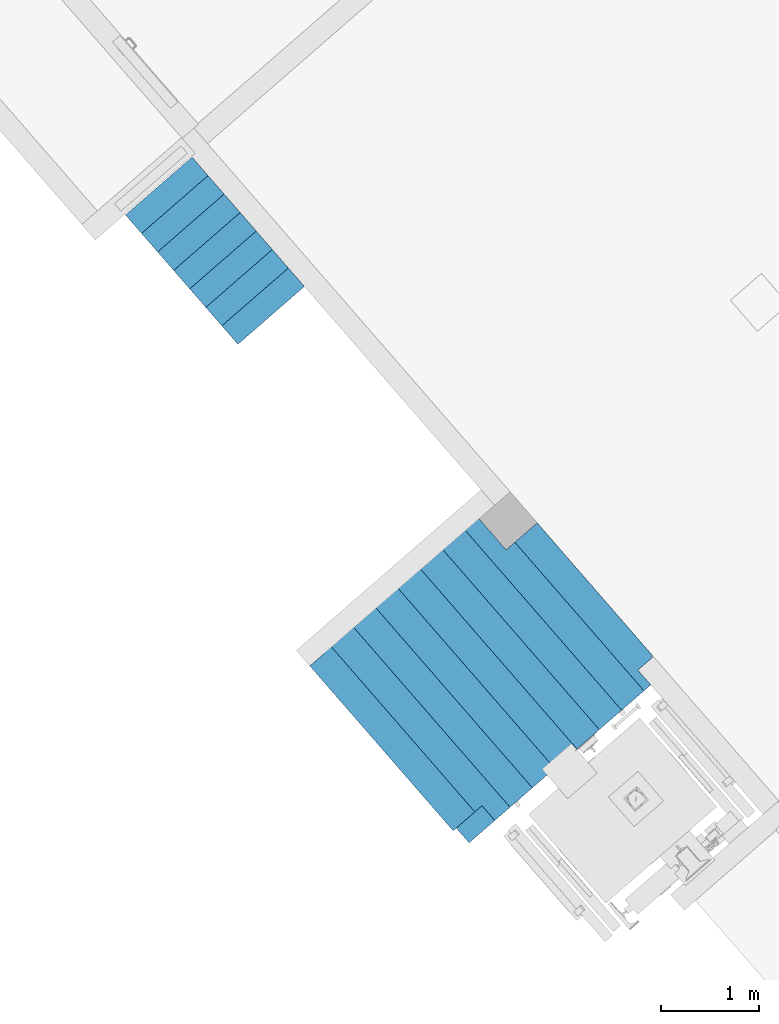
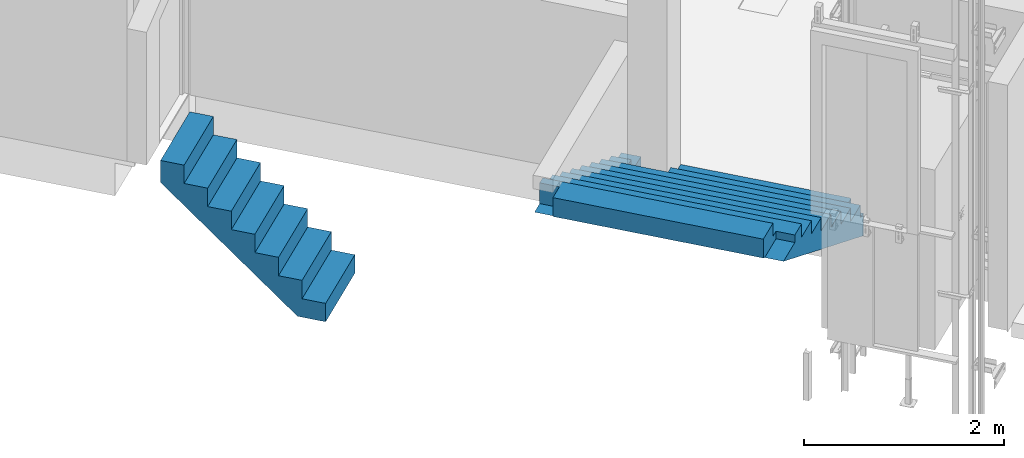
# One storey, part 101 of 124: 2 stairs, 2 elements without a shape of their own.
"""IFC2X3 building model written with IfcOpenShell, lengths in millimetres."""

from ifc_helpers import new_model, entity, si_unit, converted_unit, derived_unit, money_unit, direction, frame, origin_with_axes, place, context, subcontext, project, spatial, faceted_brep, material, element, aggregate, save


model = new_model("IFC2X3")

# Units and contexts
model_context = context("Model", 3, precision=1e-05, world=origin_with_axes(), true_north=direction((0.0, 1.0)))
body_context = subcontext(model_context, "Body", "Model", "MODEL_VIEW")
ifc_project = project(units=[si_unit("LENGTHUNIT", "METRE", prefix="MILLI"), si_unit("AREAUNIT", "SQUARE_METRE"), si_unit("VOLUMEUNIT", "CUBIC_METRE"), converted_unit("PLANEANGLEUNIT", "DEGREE", entity("IfcPlaneAngleMeasure", 0.0174532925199), si_unit("PLANEANGLEUNIT", "RADIAN"), dimensions=[0, 0, 0, 0, 0, 0, 0]), si_unit("SOLIDANGLEUNIT", "STERADIAN"), money_unit("EUR"), converted_unit("TIMEUNIT", "Year", entity("IfcTimeMeasure", 31556926.0), si_unit("TIMEUNIT", "SECOND"), dimensions=[0, 0, 1, 0, 0, 0, 0]), si_unit("MASSUNIT", "GRAM", prefix="KILO"), si_unit("THERMODYNAMICTEMPERATUREUNIT", "DEGREE_CELSIUS"), si_unit("LUMINOUSINTENSITYUNIT", "LUMEN"), si_unit("ENERGYUNIT", "JOULE", prefix="MEGA"), derived_unit("THERMALCONDUCTANCEUNIT", [(si_unit("POWERUNIT", "WATT"), 1), (si_unit("LENGTHUNIT", "METRE"), -1), (si_unit("THERMODYNAMICTEMPERATUREUNIT", "KELVIN"), -1)]), derived_unit("SPECIFICHEATCAPACITYUNIT", [(si_unit("ENERGYUNIT", "JOULE"), 1), (si_unit("MASSUNIT", "GRAM", prefix="KILO"), -1), (si_unit("THERMODYNAMICTEMPERATUREUNIT", "KELVIN"), -1)]), derived_unit("MASSDENSITYUNIT", [(si_unit("MASSUNIT", "GRAM", prefix="KILO"), 1), (si_unit("VOLUMEUNIT", "CUBIC_METRE"), -1)])], contexts=[model_context])

# Site, building, storey
site_placement = place(None, origin_with_axes())
site = spatial("IfcSite", under=ifc_project, at=site_placement, Name="Site", CompositionType="ELEMENT")
building_placement = place(site_placement, origin_with_axes())
building = spatial("IfcBuilding", under=site, at=building_placement, Name="Building", CompositionType="ELEMENT")
storey_placement = place(building_placement, frame((0.0, 0.0, -1615.0), z_axis=(0.0, 0.0, 1.0), x_axis=(1.0, 0.0, 0.0)))
storey = spatial("IfcBuildingStorey", under=building, at=storey_placement, Name="0  korrus", CompositionType="ELEMENT", Elevation=-1615.0)

# Stairs
stair_1_placement = place(storey_placement, frame((147420.396651, 79766.6819677, 0.0), z_axis=(0.0, 0.0, 1.0), x_axis=(1.0, 0.0, 0.0)))
stair_1 = element("IfcStair", 1, at=stair_1_placement, inside=storey, Name="T-10", ShapeType="NOTDEFINED")
ifc_material = material(Name="GENEERILINE - KONSTRUKTRIOON")
stair_2_placement = place(stair_1_placement, origin_with_axes())
stair_2 = element("IfcStair", 2, at=stair_2_placement, material=ifc_material, Name="GENEERILINE - KONSTRUKTRIOON", ShapeType="NOTDEFINED", context=body_context, shape_type="Brep", body=[
    faceted_brep([(-138.758344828, 144.380685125, 161.5), (-145.318941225, 151.92777163, 161.5), (-137.77184841, 158.488371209, 161.5), (-1318.6780687, 1516.96558117, 161.5), (-1546.60092291, 1318.83528578, 161.5), (-227.922220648, -198.129910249, 161.5), (-158.488961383, -137.772454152, 161.5), (-289.700260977, 13.1688794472, 161.5), (-138.758344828, 144.380685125, -20.0), (-145.318941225, 151.92777163, -20.0), (-137.77184841, 158.488371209, -20.0), (-1318.6780687, 1516.96558117, -20.0), (-1546.60092291, 1318.83528578, 323.0), (-1477.16763866, 1379.19271315, -20.0), (-1477.16763866, 1379.19271315, -114.500530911), (-1489.62034725, 1368.36773976, -105.676855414), (-1504.5129807, 1355.42177225, -95.1243106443), (-1531.70828913, 1331.78125357, -75.8544004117), (-1546.60092291, 1318.83528578, -65.301855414), (-1561.49355704, 1305.88931769, -54.7493101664), (-1588.68886412, 1282.24880018, -35.4794008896), (-1603.58149857, 1269.3028318, -24.926855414), (-1618.47413337, 1256.35686312, -14.3743096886), (-1628.1090098, 1247.98139362, -7.5472790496), (-1628.1090098, 1247.98139362, 323.0), (-227.922220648, -198.129910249, 323.0), (-158.488961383, -137.772454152, -20.0), (-455.844441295, -396.259820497, 323.0), (-455.844441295, -396.259820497, 484.5), (-683.766661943, -594.389730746, 484.5), (-683.766661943, -594.389730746, 646.0), (-911.68888259, -792.519640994, 646.0), (-911.68888259, -792.519640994, 807.5), (-1139.61110324, -990.649551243, 807.5), (-1139.61110324, -990.649551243, 969.0), (-1367.53332389, -1188.77946149, 969.0), (-1367.53332389, -1188.77946149, 1130.5), (-1595.45554453, -1386.90937174, 1130.5), (-1595.45554453, -1386.90937174, 1292.0), (-1750.92602114, -1522.05789517, 1292.0), (-1750.92602114, -1522.05789517, 1200.0), (-2013.62134557, -1750.41562573, 1200.0), (-1994.31943067, -1733.63671467, 1186.32314459), (-1965.82915308, -1708.87047589, 1166.13564459), (-1937.3388755, -1684.10423711, 1145.94814459), (-1908.84859792, -1659.33799833, 1125.76064459), (-1880.35832034, -1634.57175955, 1105.57314459), (-1851.86804276, -1609.80552077, 1085.38564459), (-1823.37776518, -1585.03928199, 1065.19814459), (-1794.8874876, -1560.27304321, 1045.01064459), (-1766.39721002, -1535.50680443, 1024.82314459), (-1737.90693244, -1510.74056565, 1004.63564459), (-1709.41665486, -1485.97432686, 984.448144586), (-1680.92637728, -1461.20808808, 964.260644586), (-1652.43609969, -1436.4418493, 944.073144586), (-1623.94582211, -1411.67561052, 923.885644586), (-1595.45554453, -1386.90937174, 903.698144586), (-1566.96526695, -1362.14313296, 883.510644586), (-1538.47498937, -1337.37689418, 863.323144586), (-1509.98471179, -1312.6106554, 843.135644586), (-1481.49443421, -1287.84441662, 822.948144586), (-1453.00415663, -1263.07817783, 802.760644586), (-1424.51387905, -1238.31193905, 782.573144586), (-1396.02360147, -1213.54570027, 762.385644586), (-1367.53332389, -1188.77946149, 742.198144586), (-1339.0430463, -1164.01322271, 722.010644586), (-1310.55276872, -1139.24698393, 701.823144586), (-1282.06249114, -1114.48074515, 681.635644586), (-1253.57221356, -1089.71450637, 661.448144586), (-1225.08193598, -1064.94826759, 641.260644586), (-1196.5916584, -1040.1820288, 621.073144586), (-1168.10138082, -1015.41579002, 600.885644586), (-1139.61110324, -990.649551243, 580.698144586), (-1111.12082566, -965.883312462, 560.510644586), (-1082.63054808, -941.117073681, 540.323144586), (-1054.14027049, -916.3508349, 520.135644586), (-1025.64999291, -891.584596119, 499.948144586), (-997.159715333, -866.818357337, 479.760644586), (-968.669437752, -842.052118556, 459.573144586), (-940.179160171, -817.285879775, 439.385644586), (-911.68888259, -792.519640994, 419.198144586), (-883.198605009, -767.753402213, 399.010644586), (-854.708327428, -742.987163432, 378.823144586), (-826.218049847, -718.220924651, 358.635644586), (-797.727772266, -693.45468587, 338.448144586), (-769.237494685, -668.688447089, 318.260644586), (-740.747217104, -643.922208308, 298.073144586), (-712.256939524, -619.155969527, 277.885644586), (-683.766661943, -594.389730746, 257.698144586), (-655.276384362, -569.623491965, 237.510644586), (-626.786106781, -544.857253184, 217.323144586), (-598.2958292, -520.091014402, 197.135644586), (-569.805551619, -495.324775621, 176.948144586), (-541.315274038, -470.55853684, 156.760644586), (-512.824996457, -445.792298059, 136.573144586), (-484.334718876, -421.026059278, 116.385644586), (-455.844441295, -396.259820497, 96.198144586), (-427.354163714, -371.493581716, 76.010644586), (-398.863886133, -346.727342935, 55.823144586), (-370.373608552, -321.961104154, 35.635644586), (-341.883330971, -297.194865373, 15.448144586), (-313.39305339, -272.428626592, -4.73935541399), (-284.902775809, -247.662387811, -24.926855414), (-256.412498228, -222.89614903, -45.114355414), (-227.922220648, -198.129910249, -65.301855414), (-199.431943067, -173.363671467, -85.489355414), (-170.941665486, -148.597432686, -105.676855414), (-158.488961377, -137.772454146, -114.500530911), (-289.700260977, 13.1688794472, -20.0), (-645.971438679, 423.011571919, -114.500530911), (-1403.00305049, 1293.8761771, -114.500530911), (-1036.93994869, 847.618895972, -105.676855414), (-1093.92050385, 798.086418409, -65.301855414), (-1150.90105902, 748.553940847, -24.926855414), (-1635.65609146, 1241.42078792, -2.19959723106), (-1207.88161418, 699.021463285, 15.448144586), (-2045.3896198, 1720.00403072, -4.73935541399), (-1903.08411915, 1565.45460722, -7.95101447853), (-1903.65378893, 1564.95940084, -7.54736081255), (-1911.20089935, 1558.39882773, -2.1996788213), (-1904.64029442, 1550.85171493, -2.19967680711), (-1635.65609146, 1241.42078792, 323.0), (-1911.20089935, 1558.39882773, 323.0), (-1903.65378893, 1564.95940084, 323.0), (-1822.14582105, 1635.81319686, 323.0), (-1959.91878706, 1794.30274707, 323.0), (-2187.84100771, 1596.17283682, 323.0), (-1904.64029442, 1550.85171493, 323.0), (-2187.84100771, 1596.17283682, 484.5), (-2415.76322835, 1398.04292657, 484.5), (-2415.76322835, 1398.04292657, 646.0), (-2643.685449, 1199.91301632, 646.0), (-2643.685449, 1199.91301632, 807.5), (-2871.60766965, 1001.78310607, 807.5), (-2871.60766965, 1001.78310607, 969.0), (-3099.5298903, 803.653195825, 969.0), (-3099.5298903, 803.653195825, 1130.5), (-3327.45211094, 605.523285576, 1130.5), (-3327.45211094, 605.523285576, 1292.0), (-3555.37433159, 407.393375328, 1292.0), (-1954.58970636, -1434.09732188, 1292.0), (-1882.13793989, -1371.11591275, 1292.0), (-1882.13793989, -1371.11591275, 1200.0), (-2144.8332831, -1599.47366982, 1200.0), (-2149.70493444, -1603.70853505, 1203.45193069), (-2860.31771387, -737.420386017, 1186.32314459), (-2803.33715871, -687.887908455, 1145.94814459), (-2746.35660355, -638.355430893, 1105.57314459), (-2689.37604839, -588.82295333, 1065.19814459), (-2632.39549322, -539.290475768, 1024.82314459), (-2575.41493806, -489.757998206, 984.448144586), (-2518.4343829, -440.225520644, 944.073144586), (-2461.45382774, -390.693043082, 903.698144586), (-2404.47327258, -341.16056552, 863.323144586), (-2347.49271741, -291.628087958, 822.948144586), (-2290.51216225, -242.095610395, 782.573144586), (-2233.53160709, -192.563132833, 742.198144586), (-2176.55105193, -143.030655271, 701.823144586), (-2119.57049677, -93.4981777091, 661.448144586), (-2062.58994161, -43.9657001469, 621.073144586), (-2005.60938644, 5.56677741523, 580.698144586), (-1948.62883128, 55.0992549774, 540.323144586), (-1891.64827612, 104.63173254, 499.948144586), (-1834.66772096, 154.164210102, 459.573144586), (-1777.6871658, 203.696687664, 419.198144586), (-1720.70661063, 253.229165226, 378.823144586), (-1663.72605547, 302.761642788, 338.448144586), (-1606.74550031, 352.29412035, 298.073144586), (-1549.76494515, 401.826597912, 257.698144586), (-1492.78438999, 451.359075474, 217.323144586), (-1435.80383482, 500.891553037, 176.948144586), (-1378.82327966, 550.424030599, 136.573144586), (-1321.8427245, 599.956508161, 96.198144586), (-1264.86216934, 649.488985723, 55.823144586), (-2073.87989738, 1695.23779194, 15.448144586), (-2016.89934222, 1744.77026951, -24.926855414), (-1879.12639418, 1586.28073997, -24.926855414), (-1752.71253989, 1696.17062779, -20.0), (-1594.22286195, 1833.94360393, -20.0), (-1594.22286195, 1833.94360393, 161.5), (-1822.14582105, 1635.81319686, 161.5), (-1855.1686697, 1607.10687228, -41.9026959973), (-1846.10354544, 1614.98706464, -48.3260148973), (-1822.14582105, 1635.81319686, -65.301855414), (-1798.18809717, 1656.63932866, -82.2776955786), (-1789.12297172, 1664.51952205, -88.701015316), (-1765.16524793, 1685.34565376, -105.676855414), (-1752.71253989, 1696.17062779, -114.500530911), (-1959.91878706, 1794.30274707, 161.5), (-3726.31599708, 258.795942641, 1186.32314459), (-3745.61791198, 242.017031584, 1200.0), (-3626.31627062, 345.724442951, 1200.0), (-3626.31627062, 345.724442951, 1453.5), (-3555.37433159, 407.393375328, 1453.5), (-1731.99656641, 1992.43265732, 161.5), (-1731.99656641, 1992.43265732, -20.0), (-1890.48552779, 1854.66020317, -20.0), (-1890.48552779, 1854.66020317, -114.500530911), (-1902.9382319, 1843.83522463, -105.676855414), (-1931.42850948, 1819.06898585, -85.489355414), (-1959.91878706, 1794.30274707, -65.301855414), (-1988.40906464, 1769.53650829, -45.114355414), (-2102.37017496, 1670.47155316, 35.635644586), (-2130.86045254, 1645.70531438, 55.823144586), (-2159.35073013, 1620.9390756, 76.010644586), (-2187.84100771, 1596.17283682, 96.198144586), (-2216.33128529, 1571.40659804, 116.385644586), (-2244.82156287, 1546.64035926, 136.573144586), (-2273.31184045, 1521.87412048, 156.760644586), (-2301.80211803, 1497.10788169, 176.948144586), (-2330.29239561, 1472.34164291, 197.135644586), (-2358.78267319, 1447.57540413, 217.323144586), (-2387.27295077, 1422.80916535, 237.510644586), (-2415.76322835, 1398.04292657, 257.698144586), (-2444.25350593, 1373.27668779, 277.885644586), (-2472.74378352, 1348.51044901, 298.073144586), (-2501.2340611, 1323.74421023, 318.260644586), (-2529.72433868, 1298.97797145, 338.448144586), (-2558.21461626, 1274.21173267, 358.635644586), (-2586.70489384, 1249.44549388, 378.823144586), (-2615.19517142, 1224.6792551, 399.010644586), (-2643.685449, 1199.91301632, 419.198144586), (-2672.17572658, 1175.14677754, 439.385644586), (-2700.66600416, 1150.38053876, 459.573144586), (-2729.15628174, 1125.61429998, 479.760644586), (-2757.64655933, 1100.8480612, 499.948144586), (-2786.13683691, 1076.08182242, 520.135644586), (-2814.62711449, 1051.31558364, 540.323144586), (-2843.11739207, 1026.54934485, 560.510644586), (-2871.60766965, 1001.78310607, 580.698144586), (-2900.09794723, 977.016867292, 600.885644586), (-2928.58822481, 952.250628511, 621.073144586), (-2957.07850239, 927.48438973, 641.260644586), (-2985.56877997, 902.718150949, 661.448144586), (-3014.05905755, 877.951912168, 681.635644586), (-3042.54933513, 853.185673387, 701.823144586), (-3071.03961272, 828.419434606, 722.010644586), (-3099.5298903, 803.653195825, 742.198144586), (-3128.02016788, 778.886957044, 762.385644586), (-3156.51044546, 754.120718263, 782.573144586), (-3185.00072304, 729.354479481, 802.760644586), (-3213.49100062, 704.5882407, 822.948144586), (-3241.9812782, 679.822001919, 843.135644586), (-3270.47155578, 655.055763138, 863.323144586), (-3298.96183336, 630.289524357, 883.510644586), (-3327.45211094, 605.523285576, 903.698144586), (-3355.94238852, 580.757046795, 923.885644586), (-3384.43266611, 555.990808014, 944.073144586), (-3412.92294369, 531.224569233, 964.260644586), (-3441.41322127, 506.458330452, 984.448144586), (-3469.90349885, 481.692091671, 1004.63564459), (-3498.39377643, 456.92585289, 1024.82314459), (-3526.88405401, 432.159614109, 1045.01064459), (-3555.37433159, 407.393375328, 1065.19814459), (-3583.86460917, 382.627136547, 1085.38564459), (-3612.35488675, 357.860897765, 1105.57314459), (-3640.84516433, 333.094658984, 1125.76064459), (-3669.33544192, 308.328420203, 1145.94814459), (-3697.8257195, 283.562181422, 1166.13564459), (-1954.58970636, -1434.09732188, 1453.5), (-2176.47420595, -1626.978726, 1453.5), (-2176.47420595, -1626.978726, 1222.41996907), (-3639.48573189, 56.0235731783, 1222.41951105), (-3612.50127648, 79.4808260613, 1203.29899686), (-3607.8454585, 83.5280709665, 1200.0), (-3488.54388632, 187.235450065, 1200.0), (-3488.54388632, 187.235450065, 1453.5), (-3639.48573189, 56.0235731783, 1453.5)], [[[0, 1, 2, 3, 4, 5, 6, 7]], [[1, 0, 8, 9]], [[10, 2, 1, 9]], [[2, 10, 11, 3]], [[12, 4, 3, 11, 13, 14, 15, 16, 17, 18, 19, 20, 21, 22, 23, 24]], [[5, 4, 12, 25]], [[26, 6, 5, 25, 27, 28, 29, 30, 31, 32, 33, 34, 35, 36, 37, 38, 39, 40, 41, 42, 43, 44, 45, 46, 47, 48, 49, 50, 51, 52, 53, 54, 55, 56, 57, 58, 59, 60, 61, 62, 63, 64, 65, 66, 67, 68, 69, 70, 71, 72, 73, 74, 75, 76, 77, 78, 79, 80, 81, 82, 83, 84, 85, 86, 87, 88, 89, 90, 91, 92, 93, 94, 95, 96, 97, 98, 99, 100, 101, 102, 103, 104, 105, 106, 107]], [[7, 6, 26, 108]], [[0, 7, 108, 8]], [[8, 108, 13, 11, 10, 9]], [[108, 26, 107, 109, 110, 14, 13]], [[111, 15, 14, 110]], [[111, 16, 15]], [[112, 17, 16, 111, 105]], [[112, 18, 17]], [[112, 19, 18]], [[113, 20, 19, 112, 103]], [[113, 21, 20]], [[113, 22, 21]], [[114, 23, 22, 113, 101, 115, 116, 117, 118, 119, 120]], [[114, 121, 24, 23]], [[122, 123, 124, 125, 126, 27, 25, 12, 24, 121, 127]], [[128, 28, 27, 126]], [[28, 128, 129, 29]], [[130, 30, 29, 129]], [[30, 130, 131, 31]], [[132, 32, 31, 131]], [[32, 132, 133, 33]], [[134, 34, 33, 133]], [[34, 134, 135, 35]], [[136, 36, 35, 135]], [[36, 136, 137, 37]], [[138, 38, 37, 137]], [[138, 139, 140, 141, 39, 38]], [[141, 142, 40, 39]], [[142, 143, 41, 40]], [[42, 41, 143, 144, 145]], [[42, 145, 43]], [[43, 146, 44]], [[44, 146, 45]], [[45, 147, 46]], [[46, 147, 47]], [[47, 148, 48]], [[48, 148, 49]], [[49, 149, 50]], [[50, 149, 51]], [[51, 150, 52]], [[52, 150, 53]], [[53, 151, 54]], [[54, 151, 55]], [[55, 152, 56]], [[56, 152, 57]], [[57, 153, 58]], [[58, 153, 59]], [[59, 154, 60]], [[60, 154, 61]], [[61, 155, 62]], [[62, 155, 63]], [[63, 156, 64]], [[64, 156, 65]], [[65, 157, 66]], [[66, 157, 67]], [[67, 158, 68]], [[68, 158, 69]], [[69, 159, 70]], [[70, 159, 71]], [[71, 160, 72]], [[72, 160, 73]], [[73, 161, 74]], [[74, 161, 75]], [[75, 162, 76]], [[76, 162, 77]], [[77, 163, 78]], [[78, 163, 79]], [[79, 164, 80]], [[80, 164, 81]], [[81, 165, 82]], [[82, 165, 83]], [[83, 166, 84]], [[84, 166, 85]], [[85, 167, 86]], [[86, 167, 87]], [[87, 168, 88]], [[88, 168, 89]], [[89, 169, 90]], [[90, 169, 91]], [[91, 170, 92]], [[92, 170, 93]], [[93, 171, 94]], [[94, 171, 95]], [[95, 172, 96]], [[96, 172, 97]], [[97, 173, 98]], [[98, 173, 99]], [[99, 115, 100]], [[100, 115, 101]], [[101, 113, 102]], [[102, 113, 103]], [[103, 112, 104]], [[104, 112, 105]], [[105, 111, 106]], [[109, 107, 106, 111]], [[111, 110, 109]], [[116, 115, 174]], [[175, 176, 117, 116]], [[177, 178, 179, 180, 124, 123, 118, 117, 176, 181, 182, 183, 184, 185, 186, 187]], [[118, 123, 122, 119]], [[119, 122, 127, 120]], [[120, 127, 121, 114]], [[125, 124, 180, 188]], [[189, 190, 191, 192, 193, 139, 138, 137, 136, 135, 134, 133, 132, 131, 130, 129, 128, 126, 125, 188, 194, 195, 196, 197, 198, 199, 200, 201, 175, 116, 174, 202, 203, 204, 205, 206, 207, 208, 209, 210, 211, 212, 213, 214, 215, 216, 217, 218, 219, 220, 221, 222, 223, 224, 225, 226, 227, 228, 229, 230, 231, 232, 233, 234, 235, 236, 237, 238, 239, 240, 241, 242, 243, 244, 245, 246, 247, 248, 249, 250, 251, 252, 253, 254, 255, 256, 257, 258]], [[139, 193, 259, 140]], [[143, 142, 141, 140, 259, 260, 261, 144]], [[144, 261, 262, 263, 145]], [[145, 258, 146, 43]], [[256, 147, 45, 146]], [[254, 148, 47, 147]], [[148, 252, 149, 49]], [[149, 250, 150, 51]], [[150, 248, 151, 53]], [[246, 152, 55, 151]], [[244, 153, 57, 152]], [[242, 154, 59, 153]], [[240, 155, 61, 154]], [[155, 238, 156, 63]], [[156, 236, 157, 65]], [[157, 234, 158, 67]], [[232, 159, 69, 158]], [[230, 160, 71, 159]], [[228, 161, 73, 160]], [[161, 226, 162, 75]], [[162, 224, 163, 77]], [[222, 164, 79, 163]], [[164, 220, 165, 81]], [[165, 218, 166, 83]], [[216, 167, 85, 166]], [[167, 214, 168, 87]], [[212, 169, 89, 168]], [[210, 170, 91, 169]], [[170, 208, 171, 93]], [[206, 172, 95, 171]], [[204, 173, 97, 172]], [[173, 202, 115, 99]], [[174, 115, 202]], [[201, 181, 176, 175]], [[195, 178, 177, 196]], [[194, 179, 178, 195]], [[188, 180, 179, 194]], [[201, 182, 181]], [[200, 183, 182, 201]], [[199, 184, 183, 200]], [[199, 185, 184]], [[198, 186, 185, 199]], [[197, 187, 186, 198]], [[196, 177, 187, 197]], [[145, 263, 264, 190, 189]], [[265, 191, 190, 264]], [[191, 265, 266, 192]], [[266, 267, 260, 259, 193, 192]], [[202, 173, 203]], [[203, 173, 204]], [[204, 172, 205]], [[205, 172, 206]], [[206, 171, 207]], [[207, 171, 208]], [[208, 170, 209]], [[209, 170, 210]], [[210, 169, 211]], [[211, 169, 212]], [[212, 168, 213]], [[213, 168, 214]], [[214, 167, 215]], [[215, 167, 216]], [[216, 166, 217]], [[217, 166, 218]], [[218, 165, 219]], [[219, 165, 220]], [[220, 164, 221]], [[221, 164, 222]], [[222, 163, 223]], [[223, 163, 224]], [[224, 162, 225]], [[225, 162, 226]], [[226, 161, 227]], [[227, 161, 228]], [[228, 160, 229]], [[229, 160, 230]], [[230, 159, 231]], [[231, 159, 232]], [[232, 158, 233]], [[233, 158, 234]], [[234, 157, 235]], [[235, 157, 236]], [[236, 156, 237]], [[237, 156, 238]], [[238, 155, 239]], [[239, 155, 240]], [[240, 154, 241]], [[241, 154, 242]], [[242, 153, 243]], [[243, 153, 244]], [[244, 152, 245]], [[245, 152, 246]], [[246, 151, 247]], [[247, 151, 248]], [[248, 150, 249]], [[249, 150, 250]], [[250, 149, 251]], [[251, 149, 252]], [[252, 148, 253]], [[253, 148, 254]], [[254, 147, 255]], [[255, 147, 256]], [[256, 146, 257]], [[257, 146, 258]], [[258, 145, 189]], [[262, 261, 260, 267]], [[263, 262, 267, 266, 265, 264]]]),
])
aggregate(stair_1, [stair_2])

stair_3_placement = place(storey_placement, frame((143046.510835, 83106.3399506, -1800.0), z_axis=(0.0, 0.0, 1.0), x_axis=(0.0, -1.0, 0.0)))
stair_3 = element("IfcStair", 3, at=stair_3_placement, inside=storey, Name="T-06", ShapeType="NOTDEFINED")
stair_4_placement = place(stair_3_placement, origin_with_axes())
stair_4 = element("IfcStair", 4, at=stair_4_placement, material=ifc_material, Name="GENEERILINE - KONSTRUKTRIOON", ShapeType="NOTDEFINED", context=body_context, shape_type="Brep", body=[
    faceted_brep([(0.0, 0.0, 0.0), (-590.453248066, 679.23876317, 0.0), (-590.453125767, 679.238622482, 225.0), (0.0, 0.0, 225.0), (-816.088315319, 483.097149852, 0.0), (-225.635088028, -196.14158942, 0.0), (-277.378313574, -136.617817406, 0.0), (-764.344988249, 423.57326105, 0.0), (-842.022985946, 460.552279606, 30.9275190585), (-873.469218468, 433.216486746, 68.4275190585), (-904.915450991, 405.880693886, 105.927519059), (-936.361683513, 378.544901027, 143.427519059), (-967.807916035, 351.209108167, 180.927519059), (-999.254148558, 323.873315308, 218.427519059), (-1030.70038108, 296.537522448, 255.927519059), (-1062.1466136, 269.201729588, 293.427519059), (-1093.59284612, 241.865936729, 330.927519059), (-1125.03907865, 214.530143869, 368.427519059), (-1156.48531117, 187.19435101, 405.927519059), (-1187.93154369, 159.85855815, 443.427519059), (-1219.37777621, 132.52276529, 480.927519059), (-1250.82400874, 105.186972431, 518.427519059), (-1282.27024126, 77.8511795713, 555.927519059), (-1313.71647378, 50.5153867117, 593.427519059), (-1345.1627063, 23.1795938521, 630.927519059), (-1376.60893883, -4.1561990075, 668.427519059), (-1408.05517135, -31.4919918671, 705.927519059), (-1439.50140387, -58.8277847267, 743.427519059), (-1470.94763639, -86.1635775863, 780.927519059), (-1502.39386891, -113.499370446, 818.427519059), (-1533.84010144, -140.835163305, 855.927519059), (-1565.28633396, -168.170956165, 893.427519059), (-1596.73256648, -195.506749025, 930.927519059), (-1628.178799, -222.842541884, 968.427519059), (-1659.62503153, -250.178334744, 1005.92751906), (-1691.07126405, -277.514127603, 1043.42751906), (-1722.51749657, -304.849920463, 1080.92751906), (-1753.96372909, -332.185713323, 1118.42751906), (-1785.40996162, -359.521506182, 1155.92751906), (-1816.85619414, -386.857299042, 1193.42751906), (-1848.30242666, -414.193091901, 1230.92751906), (-1879.74865918, -441.528884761, 1268.42751906), (-1911.19489171, -468.864677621, 1305.92751906), (-1911.19489171, -468.864677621, 1575.0), (-1722.51749657, -304.849920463, 1575.0), (-1722.51749657, -304.849920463, 1350.0), (-1533.84010144, -140.835163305, 1350.0), (-1533.84010144, -140.835163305, 1125.0), (-1345.1627063, 23.1795938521, 1125.0), (-1345.1627063, 23.1795938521, 900.0), (-1156.48531117, 187.19435101, 900.0), (-1156.48531117, 187.19435101, 675.0), (-967.807916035, 351.209108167, 675.0), (-967.807916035, 351.209108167, 450.0), (-779.130520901, 515.223865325, 450.0), (-779.130520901, 515.223865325, 225.0), (-188.677395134, -164.014757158, 225.0), (-188.677395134, -164.014757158, 450.0), (-377.354790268, -328.029514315, 450.0), (-377.354790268, -328.029514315, 675.0), (-566.032185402, -492.044271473, 675.0), (-566.032185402, -492.044271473, 900.0), (-754.709580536, -656.05902863, 900.0), (-754.709580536, -656.05902863, 1125.0), (-943.38697567, -820.073785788, 1125.0), (-943.38697567, -820.073785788, 1350.0), (-1132.0643708, -984.088542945, 1350.0), (-1132.0643708, -984.088542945, 1575.0), (-1320.74176594, -1148.1033001, 1575.0), (-1320.74176594, -1148.1033001, 1305.92751906), (-1289.29553342, -1120.76750724, 1268.42751906), (-1257.84930089, -1093.43171438, 1230.92751906), (-1226.40306837, -1066.09592152, 1193.42751906), (-1194.95683585, -1038.76012866, 1155.92751906), (-1163.51060333, -1011.4243358, 1118.42751906), (-1132.0643708, -984.088542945, 1080.92751906), (-1100.61813828, -956.752750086, 1043.42751906), (-1069.17190576, -929.416957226, 1005.92751906), (-1037.72567324, -902.081164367, 968.427519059), (-1006.27944071, -874.745371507, 930.927519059), (-974.833208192, -847.409578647, 893.427519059), (-943.38697567, -820.073785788, 855.927519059), (-911.940743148, -792.737992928, 818.427519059), (-880.494510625, -765.402200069, 780.927519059), (-849.048278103, -738.066407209, 743.427519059), (-817.602045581, -710.730614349, 705.927519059), (-786.155813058, -683.39482149, 668.427519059), (-754.709580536, -656.05902863, 630.927519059), (-723.263348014, -628.723235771, 593.427519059), (-691.817115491, -601.387442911, 555.927519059), (-660.370882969, -574.051650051, 518.427519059), (-628.924650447, -546.715857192, 480.927519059), (-597.478417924, -519.380064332, 443.427519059), (-566.032185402, -492.044271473, 405.927519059), (-534.58595288, -464.708478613, 368.427519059), (-503.139720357, -437.372685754, 330.927519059), (-471.693487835, -410.036892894, 293.427519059), (-440.247255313, -382.701100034, 255.927519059), (-408.80102279, -355.365307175, 218.427519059), (-377.354790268, -328.029514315, 180.927519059), (-345.908557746, -300.693721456, 143.427519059), (-314.462325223, -273.357928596, 105.927519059), (-283.016092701, -246.022135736, 68.4275190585), (-251.569860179, -218.686342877, 30.9275190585), (-546.796423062, 120.932968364, 30.9275190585), (-609.688888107, 66.2613826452, 105.927519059), (-672.581353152, 11.589796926, 180.927519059), (-735.473818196, -43.0817887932, 255.927519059), (-798.366283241, -97.7533745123, 330.927519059), (-861.258748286, -152.424960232, 405.927519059), (-924.15121333, -207.096545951, 480.927519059), (-987.043678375, -261.76813167, 555.927519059), (-1049.93614342, -316.439717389, 630.927519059), (-1112.82860846, -371.111303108, 705.927519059), (-1175.72107351, -425.782888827, 780.927519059), (-1238.61353855, -480.454474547, 855.927519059), (-1301.5060036, -535.126060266, 930.927519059), (-1364.39846864, -589.797645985, 1005.92751906), (-1427.29093369, -644.469231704, 1080.92751906), (-1490.18339873, -699.140817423, 1155.92751906), (-1553.07586378, -753.812403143, 1230.92751906)], [[[0, 1, 2, 3]], [[4, 1, 0, 5, 6, 7]], [[1, 4, 8, 9, 10, 11, 12, 13, 14, 15, 16, 17, 18, 19, 20, 21, 22, 23, 24, 25, 26, 27, 28, 29, 30, 31, 32, 33, 34, 35, 36, 37, 38, 39, 40, 41, 42, 43, 44, 45, 46, 47, 48, 49, 50, 51, 52, 53, 54, 55, 2]], [[56, 3, 2, 55]], [[5, 0, 3, 56, 57, 58, 59, 60, 61, 62, 63, 64, 65, 66, 67, 68, 69, 70, 71, 72, 73, 74, 75, 76, 77, 78, 79, 80, 81, 82, 83, 84, 85, 86, 87, 88, 89, 90, 91, 92, 93, 94, 95, 96, 97, 98, 99, 100, 101, 102, 103]], [[6, 5, 103, 104]], [[7, 6, 104]], [[4, 7, 104, 8]], [[8, 104, 9]], [[9, 105, 10]], [[10, 105, 11]], [[11, 106, 12]], [[12, 106, 13]], [[13, 107, 14]], [[14, 107, 15]], [[15, 108, 16]], [[16, 108, 17]], [[17, 109, 18]], [[18, 109, 19]], [[19, 110, 20]], [[20, 110, 21]], [[21, 111, 22]], [[22, 111, 23]], [[23, 112, 24]], [[24, 112, 25]], [[25, 113, 26]], [[26, 113, 27]], [[27, 114, 28]], [[28, 114, 29]], [[29, 115, 30]], [[30, 115, 31]], [[31, 116, 32]], [[32, 116, 33]], [[33, 117, 34]], [[34, 117, 35]], [[35, 118, 36]], [[36, 118, 37]], [[37, 119, 38]], [[38, 119, 39]], [[39, 120, 40]], [[40, 120, 41]], [[41, 120, 70, 69, 42]], [[68, 43, 42, 69]], [[67, 44, 43, 68]], [[45, 44, 67, 66]], [[66, 65, 46, 45]], [[47, 46, 65, 64]], [[64, 63, 48, 47]], [[49, 48, 63, 62]], [[62, 61, 50, 49]], [[51, 50, 61, 60]], [[60, 59, 52, 51]], [[53, 52, 59, 58]], [[58, 57, 54, 53]], [[55, 54, 57, 56]], [[70, 120, 71]], [[71, 120, 72]], [[72, 119, 73]], [[73, 119, 74]], [[74, 118, 75]], [[75, 118, 76]], [[76, 117, 77]], [[77, 117, 78]], [[78, 116, 79]], [[79, 116, 80]], [[80, 115, 81]], [[81, 115, 82]], [[82, 114, 83]], [[83, 114, 84]], [[84, 113, 85]], [[85, 113, 86]], [[86, 112, 87]], [[87, 112, 88]], [[88, 111, 89]], [[89, 111, 90]], [[90, 110, 91]], [[91, 110, 92]], [[92, 109, 93]], [[93, 109, 94]], [[94, 108, 95]], [[95, 108, 96]], [[96, 107, 97]], [[97, 107, 98]], [[98, 106, 99]], [[99, 106, 100]], [[100, 105, 101]], [[101, 105, 102]], [[102, 104, 103]], [[105, 9, 104, 102]], [[100, 106, 11, 105]], [[107, 13, 106, 98]], [[108, 15, 107, 96]], [[109, 17, 108, 94]], [[110, 19, 109, 92]], [[111, 21, 110, 90]], [[88, 112, 23, 111]], [[86, 113, 25, 112]], [[84, 114, 27, 113]], [[115, 29, 114, 82]], [[116, 31, 115, 80]], [[117, 33, 116, 78]], [[118, 35, 117, 76]], [[119, 37, 118, 74]], [[72, 120, 39, 119]]]),
])
aggregate(stair_3, [stair_4])

save(model, "model.ifc")
